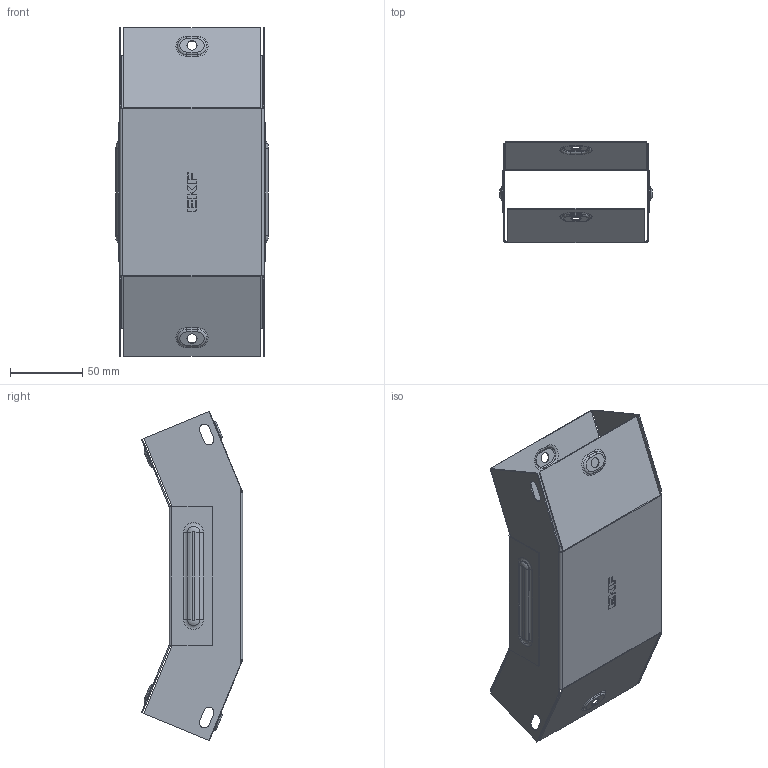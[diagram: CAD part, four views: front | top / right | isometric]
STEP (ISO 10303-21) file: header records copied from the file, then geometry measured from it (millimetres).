
FILE_DESCRIPTION (( 'STEP AP214' ), '1' );
FILE_NAME ('vi4550100_捘.STEP', '2019-06-10T08:29:10', ( '砐錪賧瘔蠈錪 Windows' ), ( '' ), 'SwSTEP 2.0', 'SolidWorks 2018', '' );
FILE_SCHEMA (( 'AUTOMOTIVE_DESIGN' ));
Length unit declared in the file: millimetre
Products named in the file (1): vi4550100_捘
Bounding box: 105.6 x 69.93 x 227.28 mm (x, y, z)
Volume: 54971.7 mm3; surface area: 139201.6 mm2
Topology: 2 solids, 2 shells, 416 faces, 1056 edges, 672 vertices
Faces by surface type: plane 222, cylinder 112, torus 64, bspline 18
Entity records: 13420 total; most frequent: CARTESIAN_POINT 3164, DIRECTION 2138, ORIENTED_EDGE 2112, EDGE_CURVE 1056, AXIS2_PLACEMENT_3D 719, VECTOR 700, LINE 700, VERTEX_POINT 672
